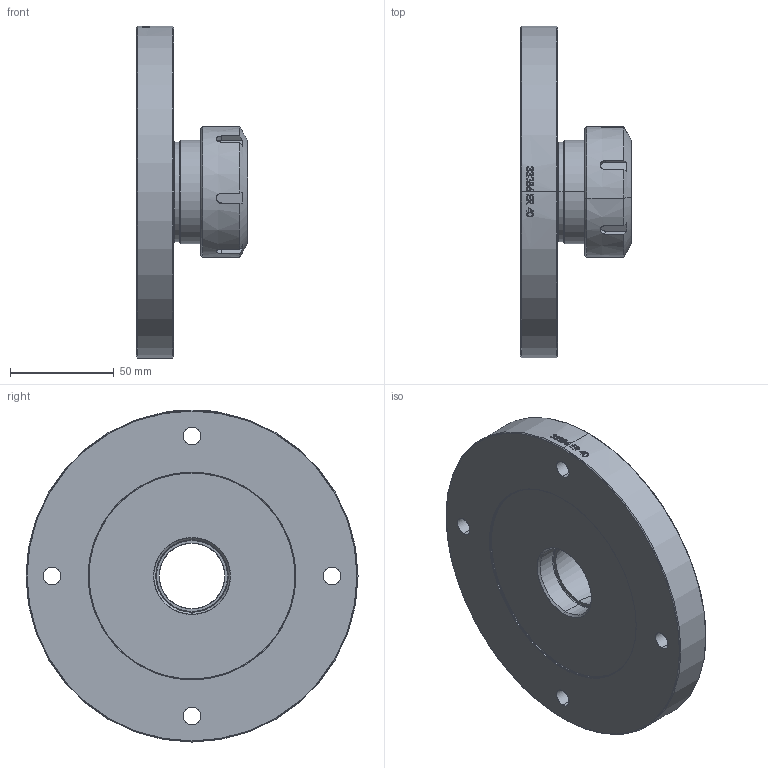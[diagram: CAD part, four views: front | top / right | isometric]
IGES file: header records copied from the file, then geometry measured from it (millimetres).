
Start section: SolidWorks IGES file using analytic representation for surfaces
Global section: file name: \\tormach-dc\Published Documents\Drawings\Files saved as other types\Solid_Models\MODELS FOR PUBLIC\33286 FACE PLATE ER40 ASSY.IGS; native system: SolidWorks 2014; preprocessor: SolidWorks 2014; author: rtooley; date: 150716.153243; units: millimetre
Bounding box: 53.5 x 160 x 160 mm (x, y, z)
Surface area: 69903.1 mm2 (no closed solid volume)
Topology: 0 solids, 0 shells, 241 faces, 4216 edges, 4216 vertices
Faces by surface type: bspline 166, revolution 75
